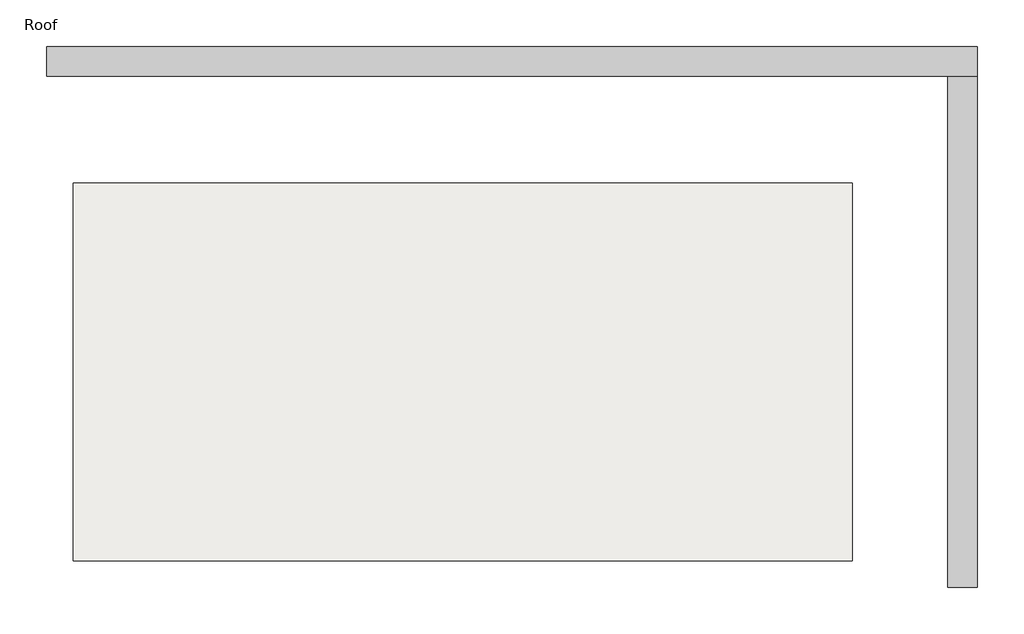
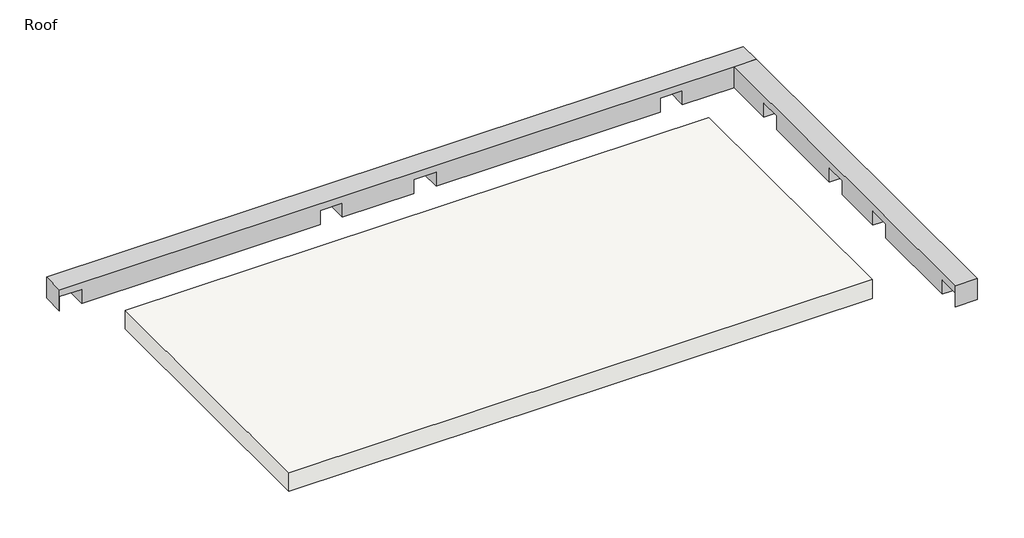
# One storey: 2 beams, 1 roof.
"""IFC4 building model written with IfcOpenShell, lengths in millimetres."""

import ifcopenshell
import ifcopenshell.guid

model = None  # the IFC model being written
_history = None  # IfcOwnerHistory: only IFC2X3 demands one
_inside = {}  # id of a spatial element -> (the spatial element, [elements in it])
_under = {}  # id of a project, library or spatial element -> (it, [spatial elements below it])
_declared = {}  # id of a project -> (the project, [libraries it declares])
_typed = {}  # id of a type object -> (the type object, [elements of that type])
_made_of = {}  # id of a material, layer set ... -> (it, [elements and type objects made of it])


def new_model(schema):
    """Start an empty IFC model of exactly this schema.

    Asked for "IFC4X3", IfcOpenShell would pick the latest addendum, in which some entities
    have other attributes; the version numbers below select the first issue.
    IFC2X3 requires an IfcOwnerHistory on every rooted entity: one is made here for all.
    """
    global model, _history
    if schema == "IFC4X3":
        model = ifcopenshell.file(schema_version=(4, 3, 0, 0))
    else:
        model = ifcopenshell.file(schema=schema)
    _inside.clear()
    _under.clear()
    _declared.clear()
    _typed.clear()
    _made_of.clear()
    _history = None
    if model.schema == "IFC2X3":
        org = make("IfcOrganization", Name="unknown")
        user = make(
            "IfcPersonAndOrganization",
            ThePerson=make("IfcPerson", FamilyName="unknown"),
            TheOrganization=org,
        )
        app = make(
            "IfcApplication",
            ApplicationDeveloper=org,
            Version="unknown",
            ApplicationFullName="unknown",
            ApplicationIdentifier="unknown",
        )
        _history = make(
            "IfcOwnerHistory",
            OwningUser=user,
            OwningApplication=app,
            ChangeAction="ADDED",
            CreationDate=0,
        )
    return model


def make(cls, **values):
    """One entity of the class cls with the attributes given. An attribute that is None is left unset."""
    return model.create_entity(
        cls, **{name: value for name, value in values.items() if value is not None}
    )


def rooted(cls, **values):
    """An entity with a GlobalId (a new one), such as an element, a storey or a relation."""
    return make(cls, GlobalId=ifcopenshell.guid.new(), OwnerHistory=_history, **values)


def si_unit(unit_type, name, prefix=None):
    """IfcSIUnit, for example si_unit("LENGTHUNIT", "METRE", prefix="MILLI")."""
    return make("IfcSIUnit", UnitType=unit_type, Prefix=prefix, Name=name)


def assignment(units):
    """IfcUnitAssignment: the units of a project."""
    return None if units is None else make("IfcUnitAssignment", Units=units)


def point(xyz):
    """IfcCartesianPoint."""
    return None if xyz is None else make("IfcCartesianPoint", Coordinates=xyz)


def direction(xyz):
    """IfcDirection."""
    return None if xyz is None else make("IfcDirection", DirectionRatios=xyz)


def frame(location, z_axis=None, x_axis=None):
    """IfcAxis2Placement3D, a coordinate frame: its origin and axes. An axis left out is left unset."""
    return make(
        "IfcAxis2Placement3D",
        Location=point(location),
        Axis=direction(z_axis),
        RefDirection=direction(x_axis),
    )


def origin():
    """The frame at (0, 0, 0) with its axes left unset."""
    return frame((0.0, 0.0, 0.0))


def place(relative_to, where):
    """IfcLocalPlacement: puts the frame where relative to a parent placement (None: the world)."""
    return make(
        "IfcLocalPlacement", PlacementRelTo=relative_to, RelativePlacement=where
    )


def context(
    kind, dimensions, precision=None, world=None, true_north=None, identifier=None
):
    """IfcGeometricRepresentationContext, for example the 3D "Model" context."""
    return make(
        "IfcGeometricRepresentationContext",
        ContextIdentifier=identifier,
        ContextType=kind,
        CoordinateSpaceDimension=dimensions,
        Precision=precision,
        WorldCoordinateSystem=world,
        TrueNorth=true_north,
    )


def project(units=None, contexts=None):
    """IfcProject with its units and contexts."""
    return rooted(
        "IfcProject",
        Name="project",
        RepresentationContexts=contexts,
        UnitsInContext=assignment(units),
    )


def spatial(cls, under=None, at=None, **own):
    """A site, building, storey or space (cls), placed at a placement, below another one or the project."""
    s = rooted(cls, ObjectPlacement=at, **own)
    if under is not None:
        _under.setdefault(under.id(), (under, []))[1].append(s)
    return s


def polyline(points):
    """IfcPolyline through the points."""
    return make("IfcPolyline", Points=[point(p) for p in points])


def outline(outer, holes=None, kind="AREA"):
    """IfcArbitraryClosedProfileDef: a profile drawn as a closed curve; with holes, ...WithVoids."""
    if holes is None:
        return make("IfcArbitraryClosedProfileDef", ProfileType=kind, OuterCurve=outer)
    return make(
        "IfcArbitraryProfileDefWithVoids",
        ProfileType=kind,
        OuterCurve=outer,
        InnerCurves=holes,
    )


def extrude(swept, where, along, depth):
    """IfcExtrudedAreaSolid: the profile swept, set in the frame where, extruded along a direction by depth."""
    return make(
        "IfcExtrudedAreaSolid",
        SweptArea=swept,
        Position=where,
        ExtrudedDirection=direction(along),
        Depth=depth,
    )


def faces_of(points, faces, orient=None, outer=None):
    """IfcFace entities. A face is a list of loops; a loop is a list of indices into points, from 0.

    orient and outer hold one flag for each loop. By default every Orientation is true, the
    first loop of a face is its IfcFaceOuterBound and the others are IfcFaceBound.
    """
    made = []
    for i, loops in enumerate(faces):
        bounds = []
        for j, loop in enumerate(loops):
            is_outer = j == 0 if outer is None else outer[i][j]
            bounds.append(
                make(
                    "IfcFaceOuterBound" if is_outer else "IfcFaceBound",
                    Bound=make("IfcPolyLoop", Polygon=[points[k] for k in loop]),
                    Orientation=True if orient is None else orient[i][j],
                )
            )
        made.append(make("IfcFace", Bounds=bounds))
    return made


def faceted_brep(points, faces, orient=None, outer=None, voids=None):
    """IfcFacetedBrep: a solid bounded by flat faces; with voids (closed shells), ...WithVoids."""
    shared = [point(p) for p in points]
    hull = make("IfcClosedShell", CfsFaces=faces_of(shared, faces, orient, outer))
    if voids is None:
        return make("IfcFacetedBrep", Outer=hull)
    return make(
        "IfcFacetedBrepWithVoids",
        Outer=hull,
        Voids=[
            make(cls, CfsFaces=faces_of(shared, fs, o, b)) for cls, fs, o, b in voids
        ],
    )


def shape(context_of_items, identifier, shape_type, items):
    """IfcShapeRepresentation: the items that make up one representation, for example the "Body"."""
    return make(
        "IfcShapeRepresentation",
        ContextOfItems=context_of_items,
        RepresentationIdentifier=identifier,
        RepresentationType=shape_type,
        Items=items,
    )


def made_of(thing, what):
    """Note that an element or type object is made of a material, layer set ...; save() writes the relation."""
    if what is not None:
        _made_of.setdefault(what.id(), (what, []))[1].append(thing)
    return thing


def element(
    cls,
    number,
    at=None,
    inside=None,
    cuts=None,
    type_object=None,
    material=None,
    context=None,
    identifier="Body",
    shape_type=None,
    held_by="IfcProductDefinitionShape",
    body=None,
    shapes=None,
    **own,
):
    """One element of the class cls, such as IfcWall. Its Tag is "e" and its number.

    at: its placement. inside: the storey or other place that contains it. cuts: it is an
    opening in that element (IfcRelVoidsElement). A single representation is given by context,
    identifier, shape_type and body (its items); several are given by shapes. held_by: the class
    of the entity that holds the representations. save() writes the other relations.
    """
    e = rooted(cls, Tag="e%d" % number, ObjectPlacement=at, **own)
    if body is not None:
        shapes = [shape(context, identifier, shape_type, body)]
    if shapes is not None:
        e.Representation = make(held_by, Representations=shapes)
    if inside is not None:
        _inside.setdefault(inside.id(), (inside, []))[1].append(e)
    if cuts is not None:
        rooted(
            "IfcRelVoidsElement", RelatingBuildingElement=cuts, RelatedOpeningElement=e
        )
    if type_object is not None:
        _typed.setdefault(type_object.id(), (type_object, []))[1].append(e)
    return made_of(e, material)


def aggregate(whole, parts):
    """IfcRelAggregates: a whole, such as a stair, and the parts it consists of."""
    return rooted("IfcRelAggregates", RelatingObject=whole, RelatedObjects=parts)


def save(model, path):
    """Write the relations noted so far, then the file.

    IfcRelAggregates (storeys below a building ...), IfcRelContainedInSpatialStructure (elements
    in a storey), IfcRelDefinesByType, IfcRelAssociatesMaterial and IfcRelDeclares: one each for
    every whole, place, type object, material and project.
    """
    for whole, parts in _under.values():
        aggregate(whole, parts)
    for where, things in _inside.values():
        rooted(
            "IfcRelContainedInSpatialStructure",
            RelatedElements=things,
            RelatingStructure=where,
        )
    for kind, things in _typed.values():
        rooted("IfcRelDefinesByType", RelatedObjects=things, RelatingType=kind)
    for what, things in _made_of.values():
        rooted("IfcRelAssociatesMaterial", RelatedObjects=things, RelatingMaterial=what)
    for by, libraries in _declared.values():
        rooted("IfcRelDeclares", RelatingContext=by, RelatedDefinitions=libraries)
    model.write(path)


model = new_model("IFC4")

# Units and contexts
model_context = context("Model", 3, world=origin())
ifc_project = project(units=[si_unit("LENGTHUNIT", "METRE", prefix="MILLI")], contexts=[model_context])

# Site, building, storey
site = spatial("IfcSite", under=ifc_project)
building = spatial("IfcBuilding", under=site)
storey = spatial("IfcBuildingStorey", under=building, Name="Roof", Elevation=12192.0)

# Beams
placement = place(None, origin())
element("IfcBeam", 1, ObjectType="M_Concrete-Rectangular Beam : 450 x 450", at=placement, inside=storey, context=model_context, shape_type="Brep", body=[
    faceted_brep([(-15338.3416203, 4481.1188386, 12192.0), (-15338.3416203, 4481.1188386, 11742.0), (-15338.3416203, 4031.1188386, 11742.0), (-15338.3416203, 4031.1188386, 12192.0), (-1643.3416203, 4031.1188386, 12192.0), (-1193.3416203, 4031.1188386, 12192.0), (-1193.3416203, 4481.1188386, 12192.0), (-15335.3416203, 4031.1188386, 11742.0), (-15335.3416203, 4031.1188386, 12042.0), (-14885.3416203, 4031.1188386, 12042.0), (-14885.3416203, 4031.1188386, 11742.0), (-10043.3416203, 4031.1188386, 11742.0), (-10043.3416203, 4031.1188386, 12042.0), (-9593.3416203, 4031.1188386, 12042.0), (-9593.3416203, 4031.1188386, 11742.0), (-8143.3416203, 4031.1188386, 11742.0), (-8143.3416203, 4031.1188386, 12042.0), (-7693.3416203, 4031.1188386, 12042.0), (-7693.3416203, 4031.1188386, 11742.0), (-3143.3416203, 4031.1188386, 11742.0), (-3143.3416203, 4031.1188386, 12042.0), (-2693.3416203, 4031.1188386, 12042.0), (-2693.3416203, 4031.1188386, 11742.0), (-1643.3416203, 4031.1188386, 11742.0), (-1643.3416203, 4031.1188386, 12042.0), (-1193.3416203, 4031.1188386, 12042.0), (-2693.3416203, 4481.1188386, 11742.0), (-1643.3416203, 4481.1188386, 11742.0), (-1193.3416203, 4481.1188386, 12042.0), (-1643.3416203, 4481.1188386, 12042.0), (-2693.3416203, 4481.1188386, 12042.0), (-3143.3416203, 4481.1188386, 12042.0), (-3143.3416203, 4481.1188386, 11742.0), (-7693.3416203, 4481.1188386, 11742.0), (-7693.3416203, 4481.1188386, 12042.0), (-8143.3416203, 4481.1188386, 12042.0), (-8143.3416203, 4481.1188386, 11742.0), (-9593.3416203, 4481.1188386, 11742.0), (-9593.3416203, 4481.1188386, 12042.0), (-10043.3416203, 4481.1188386, 12042.0), (-10043.3416203, 4481.1188386, 11742.0), (-14885.3416203, 4481.1188386, 11742.0), (-14885.3416203, 4481.1188386, 12042.0), (-15335.3416203, 4481.1188386, 12042.0), (-15335.3416203, 4481.1188386, 11742.0)], [[[0, 1, 2, 3]], [[0, 3, 4, 5, 6]], [[3, 2, 7, 8, 9, 10, 11, 12, 13, 14, 15, 16, 17, 18, 19, 20, 21, 22, 23, 24, 25, 5, 4]], [[22, 26, 27, 23]], [[1, 0, 6, 28, 29, 27, 26, 30, 31, 32, 33, 34, 35, 36, 37, 38, 39, 40, 41, 42, 43, 44]], [[6, 5, 25, 28]], [[21, 30, 26, 22]], [[31, 20, 19, 32]], [[30, 21, 20, 31]], [[32, 19, 18, 33]], [[17, 34, 33, 18]], [[35, 16, 15, 36]], [[34, 17, 16, 35]], [[36, 15, 14, 37]], [[13, 38, 37, 14]], [[39, 12, 11, 40]], [[38, 13, 12, 39]], [[40, 11, 10, 41]], [[9, 42, 41, 10]], [[42, 9, 8, 43]], [[29, 24, 23, 27]], [[24, 29, 28, 25]], [[43, 8, 7, 44]], [[2, 1, 44, 7]]]),
])
element("IfcBeam", 2, ObjectType="M_Concrete-Rectangular Beam : 450 x 450", at=placement, inside=storey, context=model_context, shape_type="Brep", body=[
    faceted_brep([(-1193.3416203, -3743.8811614, 12192.0), (-1643.3416203, -3743.8811614, 12192.0), (-1643.3416203, -3743.8811614, 11742.0), (-1193.3416203, -3743.8811614, 11742.0), (-1193.3416203, 4031.1188386, 12192.0), (-1643.3416203, 4031.1188386, 12192.0), (-1643.3416203, 4031.1188386, 12042.0), (-1643.3416203, 4031.1188386, 11742.0), (-1643.3416203, 2981.1188386, 11742.0), (-1643.3416203, 2981.1188386, 12042.0), (-1643.3416203, 2531.1188386, 12042.0), (-1643.3416203, 2531.1188386, 11742.0), (-1643.3416203, 681.1188386, 11742.0), (-1643.3416203, 681.1188386, 12042.0), (-1643.3416203, 231.1188386, 12042.0), (-1643.3416203, 231.1188386, 11742.0), (-1643.3416203, -845.3811614, 11742.0), (-1643.3416203, -845.3811614, 12042.0), (-1643.3416203, -1295.3811614, 12042.0), (-1643.3416203, -1295.3811614, 11742.0), (-1643.3416203, -3289.8811614, 11742.0), (-1643.3416203, -3289.8811614, 12042.0), (-1643.3416203, -3739.8811614, 12042.0), (-1643.3416203, -3739.8811614, 11742.0), (-1193.3416203, -3739.8811614, 11742.0), (-1193.3416203, -3739.8811614, 12042.0), (-1193.3416203, -3289.8811614, 12042.0), (-1193.3416203, -3289.8811614, 11742.0), (-1193.3416203, -1295.3811614, 11742.0), (-1193.3416203, -1295.3811614, 12042.0), (-1193.3416203, -845.3811614, 12042.0), (-1193.3416203, -845.3811614, 11742.0), (-1193.3416203, 231.1188386, 11742.0), (-1193.3416203, 231.1188386, 12042.0), (-1193.3416203, 681.1188386, 12042.0), (-1193.3416203, 681.1188386, 11742.0), (-1193.3416203, 2531.1188386, 11742.0), (-1193.3416203, 2531.1188386, 12042.0), (-1193.3416203, 2981.1188386, 12042.0), (-1193.3416203, 2981.1188386, 11742.0), (-1193.3416203, 4031.1188386, 11742.0), (-1193.3416203, 4031.1188386, 12042.0)], [[[0, 1, 2, 3]], [[1, 0, 4, 5]], [[2, 1, 5, 6, 7, 8, 9, 10, 11, 12, 13, 14, 15, 16, 17, 18, 19, 20, 21, 22, 23]], [[3, 2, 23, 24]], [[0, 3, 24, 25, 26, 27, 28, 29, 30, 31, 32, 33, 34, 35, 36, 37, 38, 39, 40, 41, 4]], [[5, 4, 41, 40, 7, 6]], [[10, 37, 36, 11]], [[38, 9, 8, 39]], [[37, 10, 9, 38]], [[7, 40, 39, 8]], [[14, 33, 32, 15]], [[34, 13, 12, 35]], [[33, 14, 13, 34]], [[11, 36, 35, 12]], [[18, 29, 28, 19]], [[30, 17, 16, 31]], [[29, 18, 17, 30]], [[15, 32, 31, 16]], [[26, 21, 20, 27]], [[25, 22, 21, 26]], [[22, 25, 24, 23]], [[19, 28, 27, 20]]]),
])

# Roof
element("IfcRoof", 3, ObjectType="Generic - 400mm", at=placement, inside=storey, context=model_context, shape_type="SweptSolid", body=[
    extrude(outline(polyline([(-14935.3416203, 2406.1188386), (-3093.3416203, 2406.1188386), (-3093.3416203, -3339.8811614), (-14935.3416203, -3339.8811614), (-14935.3416203, 2406.1188386)])), frame((0.0, 0.0, 12192.0), z_axis=(0.0, 0.0, 1.0), x_axis=(1.0, 0.0, 0.0)), (0.0, 0.0, 1.0), 400.0),
])

save(model, "model.ifc")
